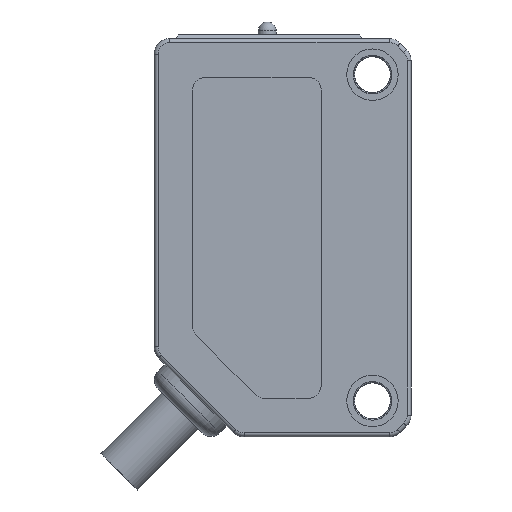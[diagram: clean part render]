
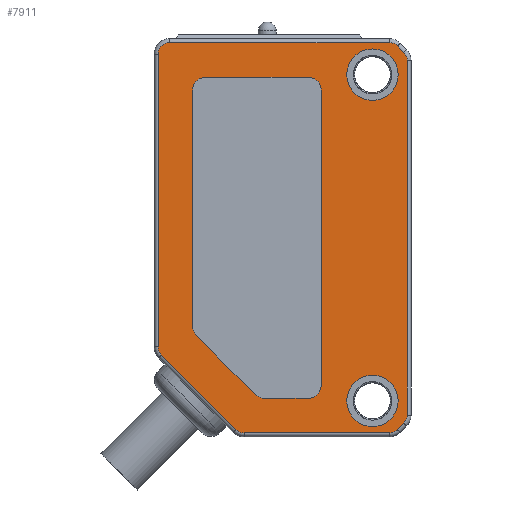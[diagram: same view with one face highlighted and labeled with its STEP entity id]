
A CAD part, front view. The second image highlights one B-rep face of the part: STEP entity #7911.
In plain terms, the highlighted planar face has unit normal (0, -1, 0) as drawn and (0, 0, -1) by its records, which use the part's own axes.
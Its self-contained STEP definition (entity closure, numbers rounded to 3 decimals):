
#472=DIRECTION('',(1.,0.,0.));
#473=VECTOR('',#472,17.103);
#474=CARTESIAN_POINT('',(21.697,82.04,-45.5));
#475=LINE('',#474,#473);
#495=DIRECTION('',(0.,-1.,0.));
#496=VECTOR('',#495,22.803);
#497=CARTESIAN_POINT('',(39.7,81.14,-45.5));
#498=LINE('',#497,#496);
#514=CARTESIAN_POINT('',(21.2,53.037,-45.5));
#515=DIRECTION('',(0.,0.,1.));
#516=DIRECTION('',(-1.,0.,0.));
#517=AXIS2_PLACEMENT_3D('',#514,#515,#516);
#519=DIRECTION('',(0.707,-0.707,0.));
#520=VECTOR('',#519,0.703);
#521=CARTESIAN_POINT('',(20.564,52.4,-45.5));
#522=LINE('',#521,#520);
#523=CARTESIAN_POINT('',(21.697,52.54,-45.5));
#524=DIRECTION('',(0.,0.,1.));
#525=DIRECTION('',(-0.707,-0.707,0.));
#526=AXIS2_PLACEMENT_3D('',#523,#524,#525);
#528=CARTESIAN_POINT('',(33.003,52.54,-45.5));
#529=DIRECTION('',(0.,0.,1.));
#530=DIRECTION('',(0.,-1.,0.));
#531=AXIS2_PLACEMENT_3D('',#528,#529,#530);
#533=DIRECTION('',(0.707,0.707,0.));
#534=VECTOR('',#533,8.198);
#535=CARTESIAN_POINT('',(33.639,51.903,-45.5));
#536=LINE('',#535,#534);
#537=CARTESIAN_POINT('',(38.8,58.337,-45.5));
#538=DIRECTION('',(0.,0.,1.));
#539=DIRECTION('',(0.707,-0.707,0.));
#540=AXIS2_PLACEMENT_3D('',#537,#538,#539);
#542=CARTESIAN_POINT('',(38.8,81.14,-45.5));
#543=DIRECTION('',(0.,0.,1.));
#544=DIRECTION('',(1.,0.,0.));
#545=AXIS2_PLACEMENT_3D('',#542,#543,#544);
#547=CARTESIAN_POINT('',(21.697,81.14,-45.5));
#548=DIRECTION('',(0.,0.,1.));
#549=DIRECTION('',(0.,1.,0.));
#550=AXIS2_PLACEMENT_3D('',#547,#548,#549);
#552=DIRECTION('',(-0.707,-0.707,0.));
#553=VECTOR('',#552,0.703);
#554=CARTESIAN_POINT('',(21.061,81.776,-45.5));
#555=LINE('',#554,#553);
#556=CARTESIAN_POINT('',(21.2,80.643,-45.5));
#557=DIRECTION('',(0.,0.,1.));
#558=DIRECTION('',(-0.707,0.707,0.));
#559=AXIS2_PLACEMENT_3D('',#556,#557,#558);
#561=CARTESIAN_POINT('',(28.,78.34,-45.5));
#562=DIRECTION('',(0.,0.,-1.));
#563=DIRECTION('',(-1.,0.,0.));
#564=AXIS2_PLACEMENT_3D('',#561,#562,#563);
#566=DIRECTION('',(1.,0.,0.));
#567=VECTOR('',#566,8.);
#568=CARTESIAN_POINT('',(28.,79.34,-45.5));
#569=LINE('',#568,#567);
#570=CARTESIAN_POINT('',(36.,78.34,-45.5));
#571=DIRECTION('',(0.,0.,-1.));
#572=DIRECTION('',(0.,1.,0.));
#573=AXIS2_PLACEMENT_3D('',#570,#571,#572);
#575=DIRECTION('',(0.,-1.,0.));
#576=VECTOR('',#575,18.419);
#577=CARTESIAN_POINT('',(37.,78.34,-45.5));
#578=LINE('',#577,#576);
#579=CARTESIAN_POINT('',(36.,59.921,-45.5));
#580=DIRECTION('',(0.,0.,-1.));
#581=DIRECTION('',(1.,0.,0.));
#582=AXIS2_PLACEMENT_3D('',#579,#580,#581);
#584=DIRECTION('',(-0.707,-0.707,0.));
#585=VECTOR('',#584,6.479);
#586=CARTESIAN_POINT('',(36.707,59.214,-45.5));
#587=LINE('',#586,#585);
#588=CARTESIAN_POINT('',(31.419,55.34,-45.5));
#589=DIRECTION('',(0.,0.,-1.));
#590=DIRECTION('',(0.707,-0.707,0.));
#591=AXIS2_PLACEMENT_3D('',#588,#589,#590);
#593=DIRECTION('',(-1.,0.,0.));
#594=VECTOR('',#593,3.419);
#595=CARTESIAN_POINT('',(31.419,54.34,-45.5));
#596=LINE('',#595,#594);
#597=CARTESIAN_POINT('',(28.,55.34,-45.5));
#598=DIRECTION('',(0.,0.,-1.));
#599=DIRECTION('',(0.,-1.,0.));
#600=AXIS2_PLACEMENT_3D('',#597,#598,#599);
#602=DIRECTION('',(0.,1.,0.));
#603=VECTOR('',#602,23.);
#604=CARTESIAN_POINT('',(27.,55.34,-45.5));
#605=LINE('',#604,#603);
#606=CARTESIAN_POINT('',(23.,79.54,-45.5));
#607=DIRECTION('',(0.,0.,-1.));
#608=DIRECTION('',(-1.,0.,0.));
#609=AXIS2_PLACEMENT_3D('',#606,#607,#608);
#611=CARTESIAN_POINT('',(23.,79.54,-45.5));
#612=DIRECTION('',(0.,0.,-1.));
#613=DIRECTION('',(1.,0.,0.));
#614=AXIS2_PLACEMENT_3D('',#611,#612,#613);
#616=CARTESIAN_POINT('',(23.,54.14,-45.5));
#617=DIRECTION('',(0.,0.,-1.));
#618=DIRECTION('',(-1.,0.,0.));
#619=AXIS2_PLACEMENT_3D('',#616,#617,#618);
#621=CARTESIAN_POINT('',(23.,54.14,-45.5));
#622=DIRECTION('',(0.,0.,-1.));
#623=DIRECTION('',(1.,0.,0.));
#624=AXIS2_PLACEMENT_3D('',#621,#622,#623);
#630=DIRECTION('',(0.,1.,0.));
#631=VECTOR('',#630,27.606);
#632=CARTESIAN_POINT('',(20.3,53.037,-45.5));
#633=LINE('',#632,#631);
#751=DIRECTION('',(-1.,0.,0.));
#752=VECTOR('',#751,11.306);
#753=CARTESIAN_POINT('',(33.003,51.64,-45.5));
#754=LINE('',#753,#752);
#6486=CARTESIAN_POINT('',(21.,79.54,-45.5));
#6487=CARTESIAN_POINT('',(25.,79.54,-45.5));
#6488=VERTEX_POINT('',#6486);
#6489=VERTEX_POINT('',#6487);
#6490=CARTESIAN_POINT('',(20.3,53.037,-45.5));
#6491=CARTESIAN_POINT('',(20.3,80.643,-45.5));
#6492=VERTEX_POINT('',#6490);
#6493=VERTEX_POINT('',#6491);
#6494=CARTESIAN_POINT('',(20.564,52.4,-45.5));
#6495=VERTEX_POINT('',#6494);
#6496=CARTESIAN_POINT('',(21.061,51.903,-45.5));
#6497=VERTEX_POINT('',#6496);
#6498=CARTESIAN_POINT('',(21.697,51.64,-45.5));
#6499=VERTEX_POINT('',#6498);
#6500=CARTESIAN_POINT('',(33.003,51.64,-45.5));
#6501=VERTEX_POINT('',#6500);
#6502=CARTESIAN_POINT('',(33.639,51.903,-45.5));
#6503=VERTEX_POINT('',#6502);
#6504=CARTESIAN_POINT('',(39.436,57.7,-45.5));
#6505=VERTEX_POINT('',#6504);
#6506=CARTESIAN_POINT('',(39.7,58.337,-45.5));
#6507=VERTEX_POINT('',#6506);
#6508=CARTESIAN_POINT('',(39.7,81.14,-45.5));
#6509=VERTEX_POINT('',#6508);
#6510=CARTESIAN_POINT('',(38.8,82.04,-45.5));
#6511=VERTEX_POINT('',#6510);
#6512=CARTESIAN_POINT('',(21.697,82.04,-45.5));
#6513=VERTEX_POINT('',#6512);
#6514=CARTESIAN_POINT('',(21.061,81.776,-45.5));
#6515=VERTEX_POINT('',#6514);
#6516=CARTESIAN_POINT('',(20.564,81.279,-45.5));
#6517=VERTEX_POINT('',#6516);
#6518=CARTESIAN_POINT('',(27.,78.34,-45.5));
#6519=CARTESIAN_POINT('',(28.,79.34,-45.5));
#6520=VERTEX_POINT('',#6518);
#6521=VERTEX_POINT('',#6519);
#6522=CARTESIAN_POINT('',(36.,79.34,-45.5));
#6523=VERTEX_POINT('',#6522);
#6524=CARTESIAN_POINT('',(37.,78.34,-45.5));
#6525=VERTEX_POINT('',#6524);
#6526=CARTESIAN_POINT('',(37.,59.921,-45.5));
#6527=VERTEX_POINT('',#6526);
#6528=CARTESIAN_POINT('',(36.707,59.214,-45.5));
#6529=VERTEX_POINT('',#6528);
#6530=CARTESIAN_POINT('',(32.126,54.633,-45.5));
#6531=VERTEX_POINT('',#6530);
#6532=CARTESIAN_POINT('',(31.419,54.34,-45.5));
#6533=VERTEX_POINT('',#6532);
#6534=CARTESIAN_POINT('',(28.,54.34,-45.5));
#6535=VERTEX_POINT('',#6534);
#6536=CARTESIAN_POINT('',(27.,55.34,-45.5));
#6537=VERTEX_POINT('',#6536);
#6538=CARTESIAN_POINT('',(21.,54.14,-45.5));
#6539=CARTESIAN_POINT('',(25.,54.14,-45.5));
#6540=VERTEX_POINT('',#6538);
#6541=VERTEX_POINT('',#6539);
#7846=CARTESIAN_POINT('',(30.,66.84,-45.5));
#7847=DIRECTION('',(0.,0.,1.));
#7848=DIRECTION('',(1.,0.,0.));
#7849=AXIS2_PLACEMENT_3D('',#7846,#7847,#7848);
#7850=PLANE('',#7849);
#7852=ORIENTED_EDGE('',*,*,#7851,.F.);
#7854=ORIENTED_EDGE('',*,*,#7853,.T.);
#7856=ORIENTED_EDGE('',*,*,#7855,.T.);
#7858=ORIENTED_EDGE('',*,*,#7857,.T.);
#7860=ORIENTED_EDGE('',*,*,#7859,.F.);
#7862=ORIENTED_EDGE('',*,*,#7861,.T.);
#7864=ORIENTED_EDGE('',*,*,#7863,.T.);
#7865=ORIENTED_EDGE('',*,*,#7837,.T.);
#7866=ORIENTED_EDGE('',*,*,#7826,.F.);
#7867=ORIENTED_EDGE('',*,*,#7811,.T.);
#7868=ORIENTED_EDGE('',*,*,#7796,.F.);
#7870=ORIENTED_EDGE('',*,*,#7869,.T.);
#7872=ORIENTED_EDGE('',*,*,#7871,.T.);
#7874=ORIENTED_EDGE('',*,*,#7873,.T.);
#7875=EDGE_LOOP('',(#7852,#7854,#7856,#7858,#7860,#7862,#7864,#7865,#7866,#7867,
#7868,#7870,#7872,#7874));
#7876=FACE_OUTER_BOUND('',#7875,.F.);
#7878=ORIENTED_EDGE('',*,*,#7877,.T.);
#7880=ORIENTED_EDGE('',*,*,#7879,.T.);
#7882=ORIENTED_EDGE('',*,*,#7881,.T.);
#7884=ORIENTED_EDGE('',*,*,#7883,.T.);
#7886=ORIENTED_EDGE('',*,*,#7885,.T.);
#7888=ORIENTED_EDGE('',*,*,#7887,.T.);
#7890=ORIENTED_EDGE('',*,*,#7889,.T.);
#7892=ORIENTED_EDGE('',*,*,#7891,.T.);
#7894=ORIENTED_EDGE('',*,*,#7893,.T.);
#7896=ORIENTED_EDGE('',*,*,#7895,.T.);
#7897=EDGE_LOOP('',(#7878,#7880,#7882,#7884,#7886,#7888,#7890,#7892,#7894,
#7896));
#7898=FACE_BOUND('',#7897,.F.);
#7900=ORIENTED_EDGE('',*,*,#7899,.T.);
#7902=ORIENTED_EDGE('',*,*,#7901,.T.);
#7903=EDGE_LOOP('',(#7900,#7902));
#7904=FACE_BOUND('',#7903,.F.);
#7906=ORIENTED_EDGE('',*,*,#7905,.T.);
#7908=ORIENTED_EDGE('',*,*,#7907,.T.);
#7909=EDGE_LOOP('',(#7906,#7908));
#7910=FACE_BOUND('',#7909,.F.);
#518=CIRCLE('',#517,0.9);
#527=CIRCLE('',#526,0.9);
#532=CIRCLE('',#531,0.9);
#541=CIRCLE('',#540,0.9);
#546=CIRCLE('',#545,0.9);
#551=CIRCLE('',#550,0.9);
#560=CIRCLE('',#559,0.9);
#565=CIRCLE('',#564,1.);
#574=CIRCLE('',#573,1.);
#583=CIRCLE('',#582,1.);
#592=CIRCLE('',#591,1.);
#601=CIRCLE('',#600,1.);
#610=CIRCLE('',#609,2.);
#615=CIRCLE('',#614,2.);
#620=CIRCLE('',#619,2.);
#625=CIRCLE('',#624,2.);
#7796=EDGE_CURVE('',#6513,#6511,#475,.T.);
#7811=EDGE_CURVE('',#6509,#6511,#546,.T.);
#7826=EDGE_CURVE('',#6509,#6507,#498,.T.);
#7837=EDGE_CURVE('',#6505,#6507,#541,.T.);
#7851=EDGE_CURVE('',#6492,#6493,#633,.T.);
#7853=EDGE_CURVE('',#6492,#6495,#518,.T.);
#7855=EDGE_CURVE('',#6495,#6497,#522,.T.);
#7857=EDGE_CURVE('',#6497,#6499,#527,.T.);
#7859=EDGE_CURVE('',#6501,#6499,#754,.T.);
#7861=EDGE_CURVE('',#6501,#6503,#532,.T.);
#7863=EDGE_CURVE('',#6503,#6505,#536,.T.);
#7869=EDGE_CURVE('',#6513,#6515,#551,.T.);
#7871=EDGE_CURVE('',#6515,#6517,#555,.T.);
#7873=EDGE_CURVE('',#6517,#6493,#560,.T.);
#7877=EDGE_CURVE('',#6520,#6521,#565,.T.);
#7879=EDGE_CURVE('',#6521,#6523,#569,.T.);
#7881=EDGE_CURVE('',#6523,#6525,#574,.T.);
#7883=EDGE_CURVE('',#6525,#6527,#578,.T.);
#7885=EDGE_CURVE('',#6527,#6529,#583,.T.);
#7887=EDGE_CURVE('',#6529,#6531,#587,.T.);
#7889=EDGE_CURVE('',#6531,#6533,#592,.T.);
#7891=EDGE_CURVE('',#6533,#6535,#596,.T.);
#7893=EDGE_CURVE('',#6535,#6537,#601,.T.);
#7895=EDGE_CURVE('',#6537,#6520,#605,.T.);
#7899=EDGE_CURVE('',#6488,#6489,#610,.T.);
#7901=EDGE_CURVE('',#6489,#6488,#615,.T.);
#7905=EDGE_CURVE('',#6540,#6541,#620,.T.);
#7907=EDGE_CURVE('',#6541,#6540,#625,.T.);
#7911=ADVANCED_FACE('',(#7876,#7898,#7904,#7910),#7850,.F.);
